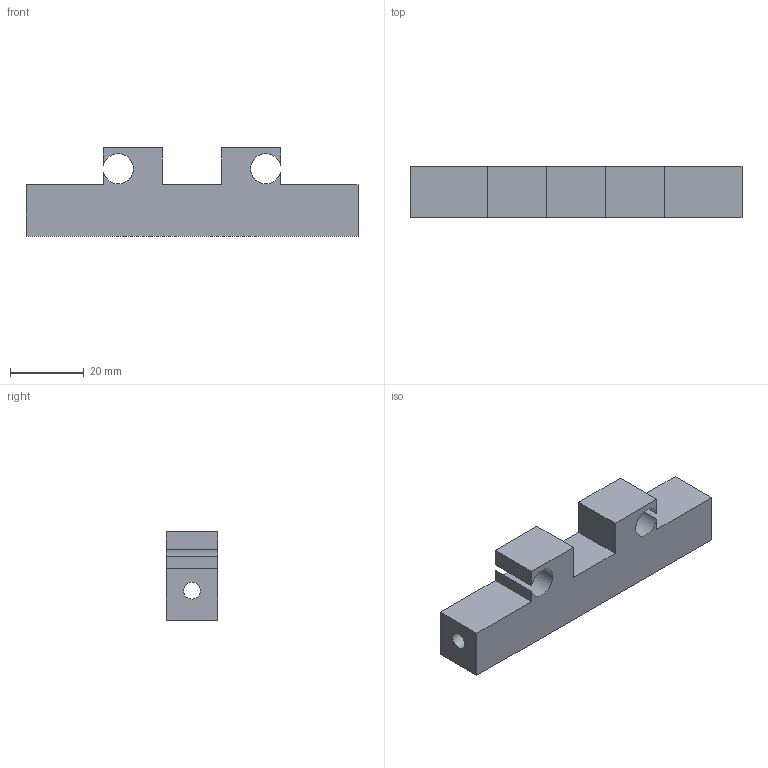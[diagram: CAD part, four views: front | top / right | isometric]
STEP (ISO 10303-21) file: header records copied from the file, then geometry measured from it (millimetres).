
FILE_DESCRIPTION(('Open CASCADE Model'),'2;1');
FILE_NAME('Open CASCADE Shape Model','2026-10-06T19:56:11',('Author'),( 'Open CASCADE'),'Open CASCADE STEP processor 7.9','Open CASCADE 7.9' ,'Unknown');
FILE_SCHEMA(('AUTOMOTIVE_DESIGN { 1 0 10303 214 1 1 1 1 }'));
Length unit declared in the file: millimetre
Products named in the file (1): Open CASCADE STEP translator 7.9 45
Bounding box: 90 x 14 x 24 mm (x, y, z)
Volume: 19213.3 mm3; surface area: 8281.9 mm2
Topology: 1 solids, 1 shells, 19 faces, 51 edges, 34 vertices
Faces by surface type: plane 16, cylinder 3
Full cylindrical faces by diameter (mm): 4.5 x1
Entity records: 1269 total; most frequent: CARTESIAN_POINT 233, DIRECTION 188, LINE 133, VECTOR 133, ORIENTED_EDGE 102, PCURVE 102, DEFINITIONAL_REPRESENTATION 102, EDGE_CURVE 51
